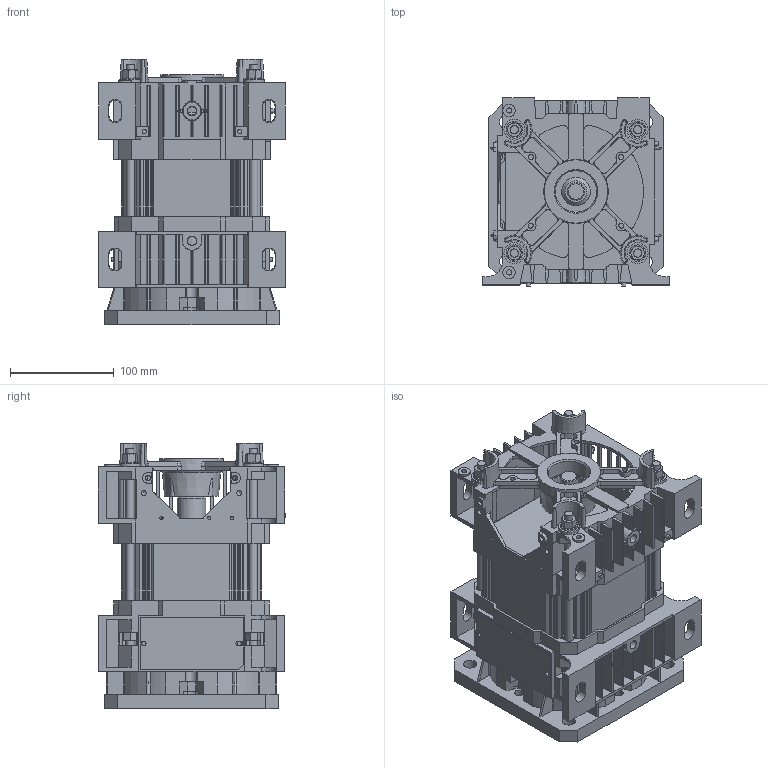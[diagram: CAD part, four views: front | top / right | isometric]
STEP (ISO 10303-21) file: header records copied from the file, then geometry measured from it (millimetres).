
FILE_DESCRIPTION(/* description */ ('Motore Tipo S34 Fl.155 F19-H65 NO Vol. NO Piedi'),/* implementation_level */ '2;1');
FILE_NAME(/* name */ 'Y:\ServerTecnico\Mockup Motori x Sito Elmo\Mockup Tipo S34 Size 3 FL155 F19-H65 NO Volano.stp',/* time_stamp */ '2016-10-07T15:20:07+02:00',/* author */ ('aparmini'),/* organization */ (''),/* preprocessor_version */ 'ST-DEVELOPER v16.5',/* originating_system */ 'Autodesk Inventor 2017',/* authorisation */ '');
FILE_SCHEMA (('AUTOMOTIVE_DESIGN { 1 0 10303 214 3 1 1 }'));
Products named in the file (8): Mockup Tipo S34 Size 3 FL155 F19-H65 NO Volano; Mockup CP3XD040N; Mockup CA3ND155Q; Mockup Statore Size 3 - F19-H65; TGS10; TI08ML190; UNI 5587 - M8; DIN 125-2 - B 8,4
Assembly tree (20 placements, depth 2):
  Mockup Tipo S34 Size 3 FL155 F19-H65 NO Volano
    Mockup CP3XD040N
    Mockup CA3ND155Q
    Mockup Statore Size 3 - F19-H65
    TGS10
    UNI 5587 - M8  x8
    TI08ML190  x4
    DIN 125-2 - B 8,4  x4
Bounding box: 180 x 181 x 256 mm (x, y, z)
Volume: 2085419.1 mm3; surface area: 521653.5 mm2
Topology: 20 solids, 20 shells, 1909 faces, 5299 edges, 3428 vertices
Faces by surface type: plane 1048, cylinder 410, cone 340, bspline 86, torus 25
Full cylindrical faces by diameter (mm): 3.2 x3, 4 x8, 4.917 x4, 5 x2, 6.647 x8, 8 x4, 8.4 x4, 12 x2, 13 x4, 16 x4, 17 x1, 19 x1, 20 x4, 21 x1, 27.5 x1, 32 x1, 40 x2, 40.1 x1, 42.5 x1, 46 x1, 81 x1, 155 x1
Entity records: 58865 total; most frequent: CARTESIAN_POINT 13130, ORIENTED_EDGE 9592, DIRECTION 9568, EDGE_CURVE 4796, AXIS2_PLACEMENT_3D 3303, VERTEX_POINT 3187, LINE 2962, VECTOR 2962
